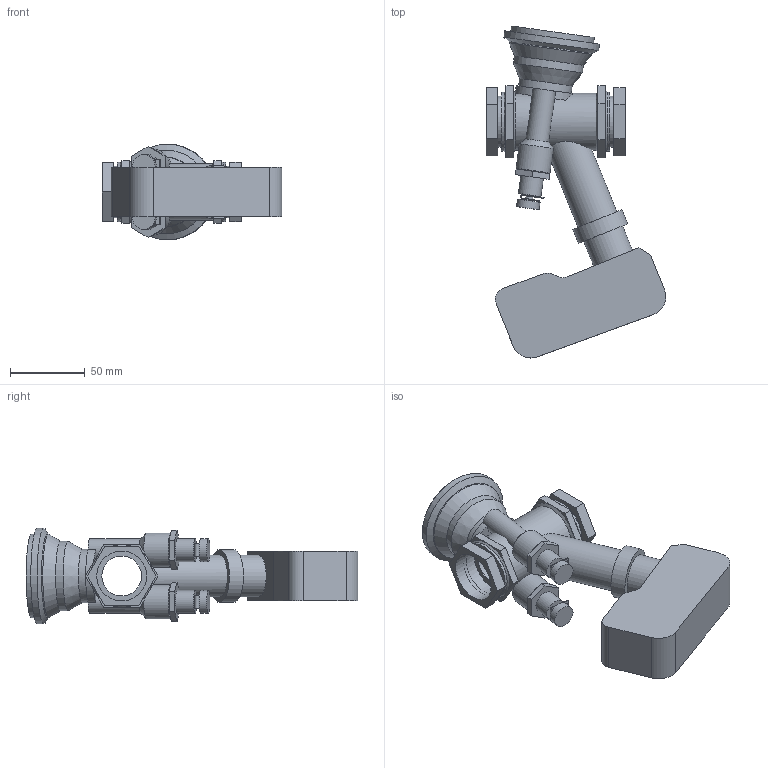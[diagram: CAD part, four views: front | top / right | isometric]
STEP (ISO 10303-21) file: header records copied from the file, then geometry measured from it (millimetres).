
FILE_DESCRIPTION(/* description */ ('VIC BALANCING AND CONTROL VALVE SERIES 7CP (FPT)-TA SLIDER 160 FAIL-SAFE','CAx-IF Rec.Pracs.---Representation and Presentation of Product Manufacturing Information (PMI)---4.0---2014-10-13'),/* implementation_level */ '2;1');
FILE_NAME(/* name */ 'C:\Users\Vjadhav\AppData\Roaming\Autodesk\ApplicationPlugins\Victaulic.Temp\A633\Victaulic_IPS_Valve Balancing Pressure Independent_TA Series 7CP (FPT)_Slider 160 Fail-Safe_1 (25).stp',/* time_stamp */ '2021-09-14T20:04:07+06:00',/* author */ ('Vjadhav'),/* organization */ ('Victaulic'),/* preprocessor_version */ 'ST-DEVELOPER v17.2',/* originating_system */ 'Autodesk Inventor 2019',/* authorisation */ '');
FILE_SCHEMA (('AP242_MANAGED_MODEL_BASED_3D_ENGINEERING_MIM_LF { 1 0 10303 442 1 1 4 }'));
Length unit declared in the file: inch
Products named in the file (2): 7CP_Slider 160 Fail-Safe-01.0; 7CP-01.0
Assembly tree (1 placements, depth 2):
  7CP_Slider 160 Fail-Safe-01.0
    7CP-01.0
Bounding box: 120.14 x 222 x 64.01 mm (x, y, z)
Volume: 359780.9 mm3; surface area: 71950.6 mm2
Topology: 1 solids, 1 shells, 171 faces, 429 edges, 286 vertices
Faces by surface type: plane 118, cylinder 44, cone 9
Full cylindrical faces by diameter (mm): 5.08 x6, 15.24 x6, 22.86 x2, 26.645 x2, 27.94 x2, 33.401 x3, 34.29 x2, 35.352 x1, 35.56 x1, 38.1 x1, 39.624 x2, 46.609 x1, 55.88 x2, 64.008 x1
Entity records: 5667 total; most frequent: CARTESIAN_POINT 1120, DIRECTION 930, ORIENTED_EDGE 858, EDGE_CURVE 429, AXIS2_PLACEMENT_3D 344, VERTEX_POINT 286, LINE 242, VECTOR 242
